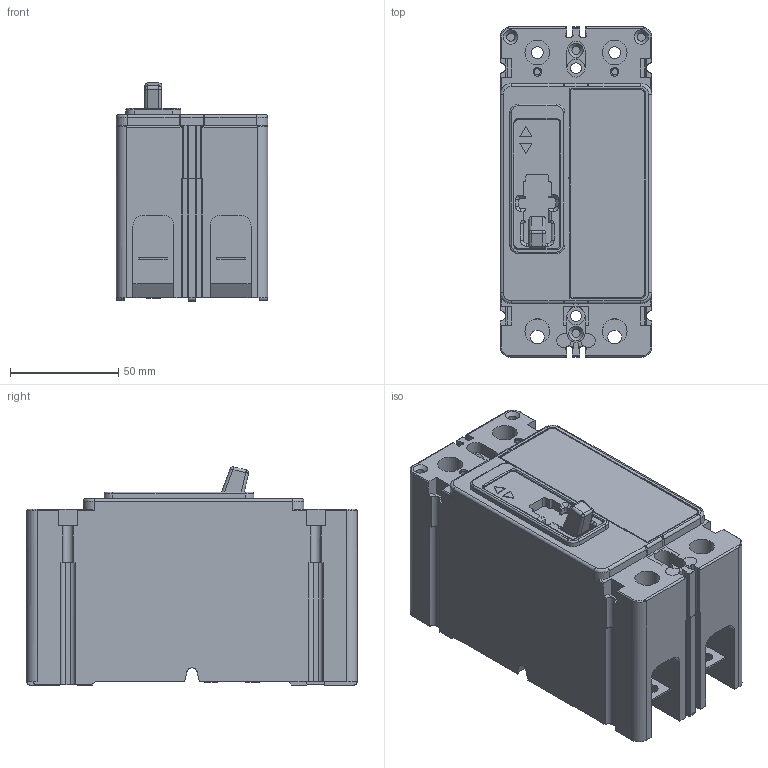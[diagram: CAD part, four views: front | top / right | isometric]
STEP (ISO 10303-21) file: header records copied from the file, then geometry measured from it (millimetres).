
FILE_DESCRIPTION((''),'2;1');
FILE_NAME('C:\Users\E0021267\Desktop\CAD Model Project\ECO-074990 - FD FIXES - In Process\FD2_.stp','2014-12-09T17:07:08',('E0021267'),(''),'Autodesk Inventor 2013','Autodesk Inventor 2013','');
FILE_SCHEMA(('AUTOMOTIVE_DESIGN { 1 2 10303 214 0 1 1 1 }'));
Length unit declared in the file: inch
Products named in the file (1): FD2_
Bounding box: 69.85 x 152.4 x 100.64 mm (x, y, z)
Volume: 764146.6 mm3; surface area: 86111.8 mm2
Topology: 1 solids, 1 shells, 711 faces, 1940 edges, 1256 vertices
Faces by surface type: plane 482, cylinder 177, torus 18, bspline 18, cone 12, sphere 4
Full cylindrical faces by diameter (mm): 2.794 x2, 3.708 x8, 3.962 x2, 5.004 x2, 5.563 x2, 6.35 x4, 8.331 x2, 8.738 x2, 11.43 x4
Entity records: 22921 total; most frequent: CARTESIAN_POINT 4840, ORIENTED_EDGE 3780, DIRECTION 3673, EDGE_CURVE 1890, VECTOR 1413, LINE 1413, VERTEX_POINT 1248, AXIS2_PLACEMENT_3D 1130
